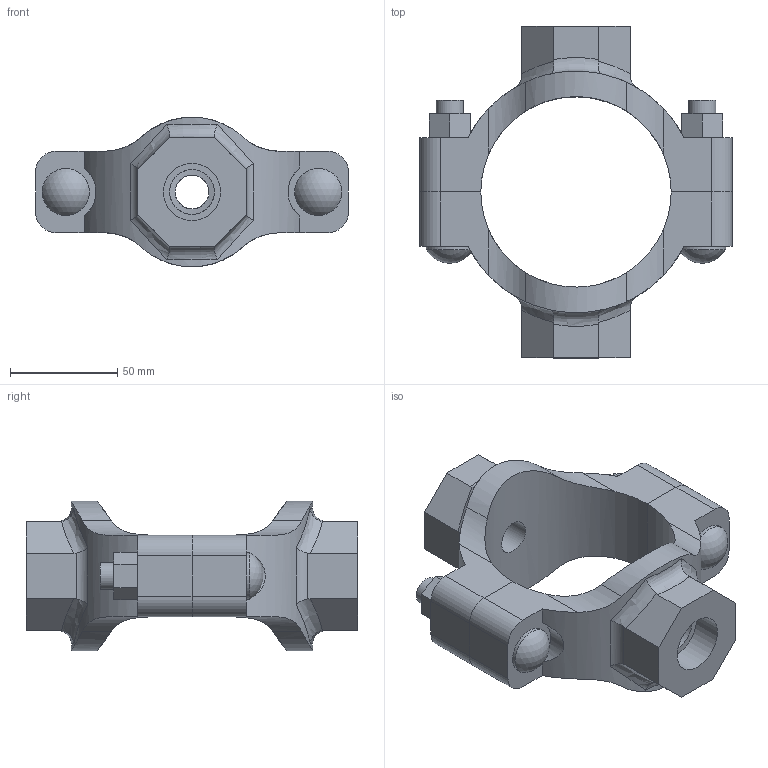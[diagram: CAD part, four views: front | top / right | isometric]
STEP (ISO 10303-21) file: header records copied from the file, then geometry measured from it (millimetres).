
FILE_DESCRIPTION(/* description */ ('VIC MECH-T BRANCH OUTLET CROSS STYLE 920N (THD)','CAx-IF Rec.Pracs.---Representation and Presentation of Product Manufacturing Information (PMI)---4.0---2014-10-13'),/* implementation_level */ '2;1');
FILE_NAME(/* name */ 'C:\Users\Vjadhav\AppData\Roaming\Autodesk\ApplicationPlugins\Back Up\Victaulic_IPS_Mechanical-Cross Outlet_Style 920N (FPT)\Victaulic_IPS_Mechanical-Cross Outlet_03.0x0.5x0.75 (80x15x20).stp',/* time_stamp */ '2020-08-06T18:57:04+05:00',/* author */ ('Vjadhav'),/* organization */ ('Victaulic'),/* preprocessor_version */ 'ST-DEVELOPER v17.2',/* originating_system */ 'Autodesk Inventor 2019',/* authorisation */ '');
FILE_SCHEMA (('AP242_MANAGED_MODEL_BASED_3D_ENGINEERING_MIM_LF { 1 0 10303 442 1 1 4 }'));
Length unit declared in the file: inch
Products named in the file (3): 920NT-03.0x0.5x0.75; 920NT-03.0x0.5; 920NT-03.0x0.75
Assembly tree (2 placements, depth 2):
  920NT-03.0x0.5x0.75
    920NT-03.0x0.5
    920NT-03.0x0.75
Bounding box: 146.05 x 154.94 x 69.84 mm (x, y, z)
Volume: 322016.5 mm3; surface area: 71484 mm2
Topology: 2 solids, 2 shells, 132 faces, 350 edges, 236 vertices
Faces by surface type: plane 68, cylinder 50, bspline 8, torus 4, sphere 2
Full cylindrical faces by diameter (mm): 12.7 x4, 15.799 x1, 20.93 x1, 21.336 x1, 21.982 x2, 26.67 x1
Entity records: 5070 total; most frequent: CARTESIAN_POINT 1557, ORIENTED_EDGE 700, DIRECTION 648, EDGE_CURVE 350, VERTEX_POINT 236, AXIS2_PLACEMENT_3D 231, LINE 186, VECTOR 186
